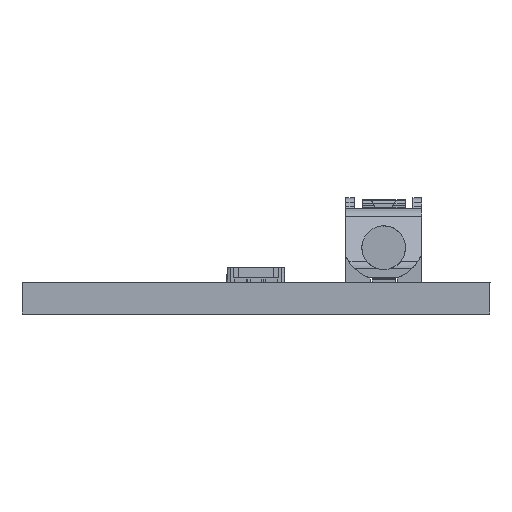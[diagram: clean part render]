
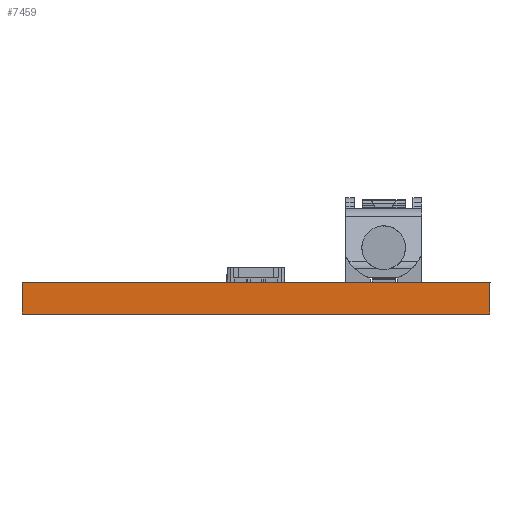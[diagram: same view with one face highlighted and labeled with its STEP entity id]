
A CAD part, left-side view. The second image highlights one B-rep face of the part: STEP entity #7459.
In plain terms, the highlighted planar face has unit normal (-1, 0, 0).
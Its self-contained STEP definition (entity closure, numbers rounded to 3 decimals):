
#482 = EDGE_LOOP ( 'NONE', ( #8194, #1038, #5401, #3834 ) ) ;
#860 = CARTESIAN_POINT ( 'NONE',  ( 0., 24., 0. ) ) ;
#887 = CARTESIAN_POINT ( 'NONE',  ( 0., 0., 1.6 ) ) ;
#902 = EDGE_CURVE ( 'NONE', #7066, #2936, #6418, .T. ) ;
#1038 = ORIENTED_EDGE ( 'NONE', *, *, #902, .F. ) ;
#1187 = LINE ( 'NONE', #5042, #2688 ) ;
#1312 = VECTOR ( 'NONE', #6014, 1000. ) ;
#1567 = CARTESIAN_POINT ( 'NONE',  ( 0., 0., 1.6 ) ) ;
#1753 = DIRECTION ( 'NONE',  ( 0., 0., -1. ) ) ;
#1888 = CARTESIAN_POINT ( 'NONE',  ( 0., 24., 1.6 ) ) ;
#2055 = VERTEX_POINT ( 'NONE', #860 ) ;
#2085 = DIRECTION ( 'NONE',  ( 0., -1., 0. ) ) ;
#2355 = EDGE_CURVE ( 'NONE', #4072, #2055, #1187, .T. ) ;
#2688 = VECTOR ( 'NONE', #6313, 1000. ) ;
#2783 = EDGE_CURVE ( 'NONE', #4072, #7066, #5596, .T. ) ;
#2936 = VERTEX_POINT ( 'NONE', #4420 ) ;
#3009 = PLANE ( 'NONE',  #3804 ) ;
#3087 = DIRECTION ( 'NONE',  ( 0., -1., 0. ) ) ;
#3650 = CARTESIAN_POINT ( 'NONE',  ( 0., 0., 1.6 ) ) ;
#3804 = AXIS2_PLACEMENT_3D ( 'NONE', #3650, #5591, #1753 ) ;
#3815 = EDGE_CURVE ( 'NONE', #2055, #2936, #4689, .T. ) ;
#3834 = ORIENTED_EDGE ( 'NONE', *, *, #2355, .T. ) ;
#3903 = VECTOR ( 'NONE', #3087, 1000. ) ;
#4072 = VERTEX_POINT ( 'NONE', #1888 ) ;
#4173 = CARTESIAN_POINT ( 'NONE',  ( 0., 0., 0. ) ) ;
#4420 = CARTESIAN_POINT ( 'NONE',  ( 0., 0., 0. ) ) ;
#4625 = CARTESIAN_POINT ( 'NONE',  ( 0., 0., 1.6 ) ) ;
#4689 = LINE ( 'NONE', #4173, #4886 ) ;
#4731 = FACE_OUTER_BOUND ( 'NONE', #482, .T. ) ;
#4886 = VECTOR ( 'NONE', #2085, 1000. ) ;
#5042 = CARTESIAN_POINT ( 'NONE',  ( 0., 24., 1.6 ) ) ;
#5401 = ORIENTED_EDGE ( 'NONE', *, *, #2783, .F. ) ;
#5591 = DIRECTION ( 'NONE',  ( 1., 0., 0. ) ) ;
#5596 = LINE ( 'NONE', #1567, #3903 ) ;
#6014 = DIRECTION ( 'NONE',  ( 0., 0., -1. ) ) ;
#6313 = DIRECTION ( 'NONE',  ( 0., 0., -1. ) ) ;
#6418 = LINE ( 'NONE', #887, #1312 ) ;
#7066 = VERTEX_POINT ( 'NONE', #4625 ) ;
#7459 = ADVANCED_FACE ( 'NONE', ( #4731 ), #3009, .F. ) ;
#8194 = ORIENTED_EDGE ( 'NONE', *, *, #3815, .T. ) ;
